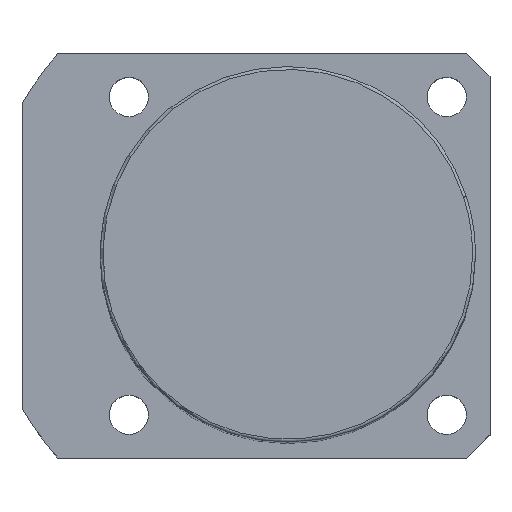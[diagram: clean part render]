
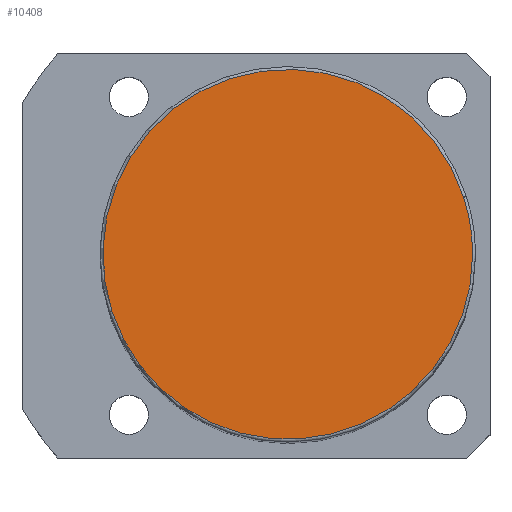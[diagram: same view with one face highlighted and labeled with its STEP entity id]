
A CAD part, top view. The second image highlights one B-rep face of the part: STEP entity #10408.
In plain terms, the highlighted planar face has unit normal (0, 0, 1).
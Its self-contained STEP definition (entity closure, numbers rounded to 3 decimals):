
#10341=CARTESIAN_POINT('',(30.434,9.889,166.0));
#10342=VERTEX_POINT('',#10341);
#10360=CARTESIAN_POINT('',(-30.434,-9.889,166.0));
#10361=VERTEX_POINT('',#10360);
#10369=CARTESIAN_POINT('',(0.0,0.0,166.0));
#10370=DIRECTION('',(0.0,0.0,1.0));
#10371=DIRECTION('',(1.0,0.0,0.0));
#10372=AXIS2_PLACEMENT_3D('',#10369,#10370,#10371);
#10373=CIRCLE('',#10372,32.0);
#10374=EDGE_CURVE('no 4917',#10342,#10361,#10373,.T.);
#10384=CARTESIAN_POINT('',(32.0,0.0,166.0));
#10385=VERTEX_POINT('',#10384);
#10386=CARTESIAN_POINT('',(0.0,0.0,166.0));
#10387=DIRECTION('',(0.0,0.0,1.0));
#10388=DIRECTION('',(1.0,0.0,0.0));
#10389=AXIS2_PLACEMENT_3D('',#10386,#10387,#10388);
#10390=CIRCLE('',#10389,32.0);
#10391=EDGE_CURVE('no 4926',#10385,#10342,#10390,.T.);
#10392=ORIENTED_EDGE('',*,*,#10391,.T.);
#10393=ORIENTED_EDGE('',*,*,#10374,.T.);
#10394=CARTESIAN_POINT('',(0.0,0.0,166.0));
#10395=DIRECTION('',(0.0,0.0,1.0));
#10396=DIRECTION('',(1.0,0.0,0.0));
#10397=AXIS2_PLACEMENT_3D('',#10394,#10395,#10396);
#10398=CIRCLE('',#10397,32.0);
#10399=EDGE_CURVE('no 4932',#10361,#10385,#10398,.T.);
#10400=ORIENTED_EDGE('',*,*,#10399,.T.);
#10401=EDGE_LOOP('',(#10392,#10393,#10400));
#10402=FACE_OUTER_BOUND('',#10401,.T.);
#10403=CARTESIAN_POINT('',(0.0,0.0,166.0));
#10404=DIRECTION('',(0.0,0.0,1.0));
#10405=DIRECTION('',(1.0,0.0,0.0));
#10406=AXIS2_PLACEMENT_3D('',#10403,#10404,#10405);
#10407=PLANE('',#10406);
#10408=ADVANCED_FACE('no 4919',(#10402),#10407,.T.);
